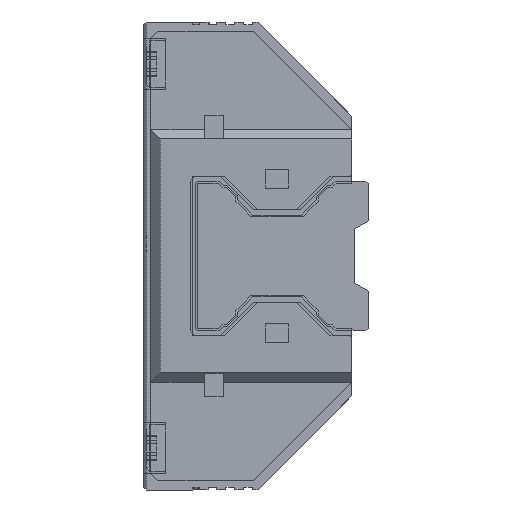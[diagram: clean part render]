
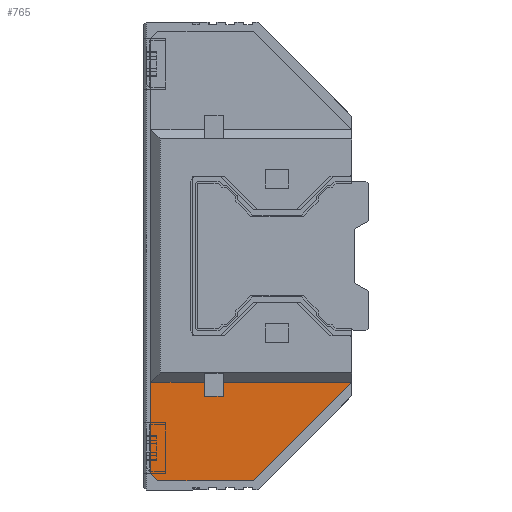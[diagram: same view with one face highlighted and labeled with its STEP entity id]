
A CAD part, left-side view. The second image highlights one B-rep face of the part: STEP entity #765.
In plain terms, the highlighted planar face has unit normal (-1, 0, 0).
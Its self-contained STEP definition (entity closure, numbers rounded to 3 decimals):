
#765 = ADVANCED_FACE( '', ( #2333 ), #2334, .T. );
#2333 = FACE_OUTER_BOUND( '', #3950, .T. );
#2334 = PLANE( '', #3951 );
#3950 = EDGE_LOOP( '', ( #8611, #8612, #8613, #8614, #8615, #8616, #8617, #8618, #8619 ) );
#3951 = AXIS2_PLACEMENT_3D( '', #8620, #8621, #8622 );
#8611 = ORIENTED_EDGE( '', *, *, #10470, .F. );
#8612 = ORIENTED_EDGE( '', *, *, #10142, .F. );
#8613 = ORIENTED_EDGE( '', *, *, #10127, .F. );
#8614 = ORIENTED_EDGE( '', *, *, #10170, .F. );
#8615 = ORIENTED_EDGE( '', *, *, #10168, .F. );
#8616 = ORIENTED_EDGE( '', *, *, #10166, .F. );
#8617 = ORIENTED_EDGE( '', *, *, #10139, .F. );
#8618 = ORIENTED_EDGE( '', *, *, #10471, .T. );
#8619 = ORIENTED_EDGE( '', *, *, #10469, .T. );
#8620 = CARTESIAN_POINT( '', ( -70.5, 67.5, -27. ) );
#8621 = DIRECTION( '', ( -1., 0., 0. ) );
#8622 = DIRECTION( '', ( 0., 0., 1. ) );
#10127 = EDGE_CURVE( '', #12492, #12493, #12494, .T. );
#10139 = EDGE_CURVE( '', #12513, #12515, #12516, .T. );
#10142 = EDGE_CURVE( '', #12493, #12509, #12519, .T. );
#10166 = EDGE_CURVE( '', #12515, #12559, #12560, .T. );
#10168 = EDGE_CURVE( '', #12559, #12562, #12563, .T. );
#10170 = EDGE_CURVE( '', #12562, #12492, #12565, .T. );
#10469 = EDGE_CURVE( '', #13046, #13048, #13050, .T. );
#10470 = EDGE_CURVE( '', #12509, #13048, #13051, .T. );
#10471 = EDGE_CURVE( '', #12513, #13046, #13052, .T. );
#12492 = VERTEX_POINT( '', #15778 );
#12493 = VERTEX_POINT( '', #15779 );
#12494 = LINE( '', #15780, #15781 );
#12509 = VERTEX_POINT( '', #15804 );
#12513 = VERTEX_POINT( '', #15810 );
#12515 = VERTEX_POINT( '', #15813 );
#12516 = LINE( '', #15814, #15815 );
#12519 = LINE( '', #15820, #15821 );
#12559 = VERTEX_POINT( '', #15884 );
#12560 = LINE( '', #15885, #15886 );
#12562 = VERTEX_POINT( '', #15889 );
#12563 = LINE( '', #15890, #15891 );
#12565 = LINE( '', #15894, #15895 );
#13046 = VERTEX_POINT( '', #16633 );
#13048 = VERTEX_POINT( '', #16636 );
#13050 = LINE( '', #16639, #16640 );
#13051 = LINE( '', #16641, #16642 );
#13052 = LINE( '', #16643, #16644 );
#15778 = CARTESIAN_POINT( '', ( -70.5, 28., -46.5 ) );
#15779 = CARTESIAN_POINT( '', ( -70.5, 28., -27. ) );
#15780 = CARTESIAN_POINT( '', ( -70.5, 28., -46.5 ) );
#15781 = VECTOR( '', #18867, 1000. );
#15804 = CARTESIAN_POINT( '', ( -70.5, 16.5, -27. ) );
#15810 = CARTESIAN_POINT( '', ( -70.5, 12.5, -27. ) );
#15813 = CARTESIAN_POINT( '', ( -70.5, -15., -27. ) );
#15814 = CARTESIAN_POINT( '', ( -70.5, 67.5, -27. ) );
#15815 = VECTOR( '', #18879, 1000. );
#15820 = CARTESIAN_POINT( '', ( -70.5, 67.5, -27. ) );
#15821 = VECTOR( '', #18882, 1000. );
#15884 = CARTESIAN_POINT( '', ( -70.5, 6., -48. ) );
#15885 = CARTESIAN_POINT( '', ( -70.5, -15., -27. ) );
#15886 = VECTOR( '', #18906, 1000. );
#15889 = CARTESIAN_POINT( '', ( -70.5, 26.5, -48. ) );
#15890 = CARTESIAN_POINT( '', ( -70.5, 6., -48. ) );
#15891 = VECTOR( '', #18908, 1000. );
#15894 = CARTESIAN_POINT( '', ( -70.5, 26.5, -48. ) );
#15895 = VECTOR( '', #18910, 1000. );
#16633 = CARTESIAN_POINT( '', ( -70.5, 12.5, -30. ) );
#16636 = CARTESIAN_POINT( '', ( -70.5, 16.5, -30. ) );
#16639 = CARTESIAN_POINT( '', ( -70.5, 67.5, -30. ) );
#16640 = VECTOR( '', #19287, 1000. );
#16641 = CARTESIAN_POINT( '', ( -70.5, 16.5, -27. ) );
#16642 = VECTOR( '', #19288, 1000. );
#16643 = CARTESIAN_POINT( '', ( -70.5, 12.5, -27. ) );
#16644 = VECTOR( '', #19289, 1000. );
#18867 = DIRECTION( '', ( 0., 0., 1. ) );
#18879 = DIRECTION( '', ( 0., -1., 0. ) );
#18882 = DIRECTION( '', ( 0., -1., 0. ) );
#18906 = DIRECTION( '', ( 0., 0.707, -0.707 ) );
#18908 = DIRECTION( '', ( 0., 1., 0. ) );
#18910 = DIRECTION( '', ( 0., 0.707, 0.707 ) );
#19287 = DIRECTION( '', ( 0., 1., 0. ) );
#19288 = DIRECTION( '', ( 0., 0., -1. ) );
#19289 = DIRECTION( '', ( 0., 0., -1. ) );
